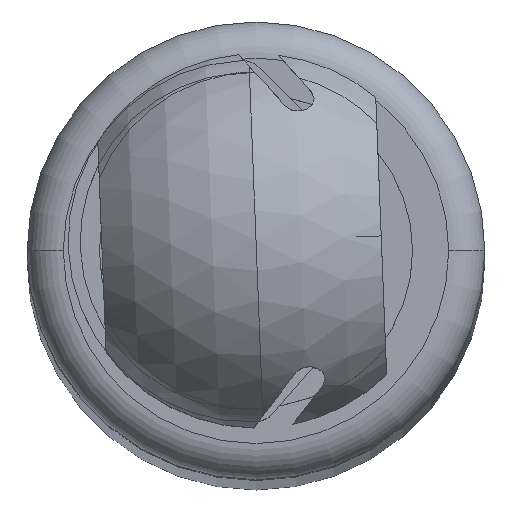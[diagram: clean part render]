
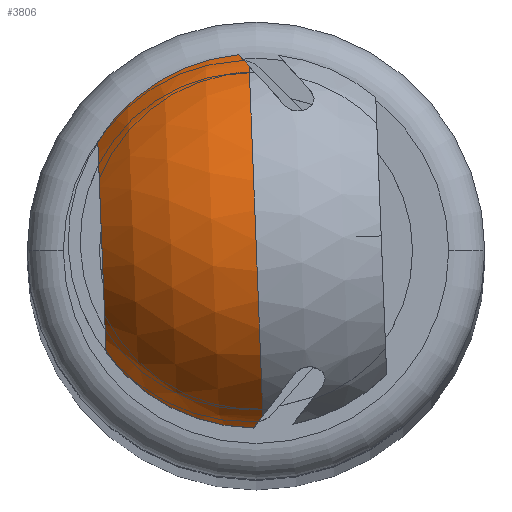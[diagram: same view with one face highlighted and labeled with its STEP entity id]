
A CAD part, top view. The second image highlights one B-rep face of the part: STEP entity #3806.
In plain terms, the highlighted spherical face has radius 8.25 mm.
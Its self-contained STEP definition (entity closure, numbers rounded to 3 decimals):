
#53 = CIRCLE ( 'NONE', #160, 6.804 ) ;
#75 = CIRCLE ( 'NONE', #363, 7.76 ) ;
#131 = AXIS2_PLACEMENT_3D ( 'NONE', #816, #815, #814 ) ;
#151 = CIRCLE ( 'NONE', #156, 5.206 ) ;
#156 = AXIS2_PLACEMENT_3D ( 'NONE', #817, #819, #820 ) ;
#160 = AXIS2_PLACEMENT_3D ( 'NONE', #824, #931, #975 ) ;
#175 = CIRCLE ( 'NONE', #222, 6.804 ) ;
#222 = AXIS2_PLACEMENT_3D ( 'NONE', #4456, #4457, #4458 ) ;
#225 = AXIS2_PLACEMENT_3D ( 'NONE', #4450, #4451, #4452 ) ;
#227 = CIRCLE ( 'NONE', #225, 8.25 ) ;
#295 = CIRCLE ( 'NONE', #330, 7.76 ) ;
#330 = AXIS2_PLACEMENT_3D ( 'NONE', #4600, #4601, #4602 ) ;
#363 = AXIS2_PLACEMENT_3D ( 'NONE', #4261, #4262, #4263 ) ;
#492 = CIRCLE ( 'NONE', #131, 8.25 ) ;
#814 = DIRECTION ( 'NONE',  ( 1., 0., 0. ) ) ;
#815 = DIRECTION ( 'NONE',  ( 0., 0., 1. ) ) ;
#816 = CARTESIAN_POINT ( 'NONE',  ( -70., 0., 0. ) ) ;
#817 = CARTESIAN_POINT ( 'NONE',  ( -70., 0., 6.4 ) ) ;
#819 = DIRECTION ( 'NONE',  ( 0., 0., -1. ) ) ;
#820 = DIRECTION ( 'NONE',  ( 1., 0., 0. ) ) ;
#824 = CARTESIAN_POINT ( 'NONE',  ( -70., -2.999, -3.574 ) ) ;
#931 = DIRECTION ( 'NONE',  ( 0., 0.643, 0.766 ) ) ;
#975 = DIRECTION ( 'NONE',  ( 0., -0.766, 0.643 ) ) ;
#1315 = CARTESIAN_POINT ( 'NONE',  ( -70., 0., 0. ) ) ;
#1385 = DIRECTION ( 'NONE',  ( 0., 0., -1. ) ) ;
#1512 = DIRECTION ( 'NONE',  ( 0., -1., 0. ) ) ;
#1862 = CARTESIAN_POINT ( 'NONE',  ( -72.8, 4.389, 6.4 ) ) ;
#1934 = CARTESIAN_POINT ( 'NONE',  ( -72.8, -7.749, 0.412 ) ) ;
#1948 = CARTESIAN_POINT ( 'NONE',  ( -72.8, -4.389, 6.4 ) ) ;
#1981 = CARTESIAN_POINT ( 'NONE',  ( -72.8, 7.749, 0.412 ) ) ;
#2028 = CARTESIAN_POINT ( 'NONE',  ( -73.921, -7.259, 0. ) ) ;
#2065 = CARTESIAN_POINT ( 'NONE',  ( -78.25, 0., 0. ) ) ;
#2243 = CARTESIAN_POINT ( 'NONE',  ( -73.921, 7.259, 0. ) ) ;
#2335 = SPHERICAL_SURFACE ( 'NONE', #3116, 8.25 ) ;
#2343 = FACE_OUTER_BOUND ( 'NONE', #3198, .T. ) ;
#3116 = AXIS2_PLACEMENT_3D ( 'NONE', #1315, #1385, #1512 ) ;
#3198 = EDGE_LOOP ( 'NONE', ( #3345, #3327, #3399, #3407, #3366, #3403, #3377 ) ) ;
#3327 = ORIENTED_EDGE ( 'NONE', *, *, #4723, .T. ) ;
#3345 = ORIENTED_EDGE ( 'NONE', *, *, #4842, .F. ) ;
#3349 = VERTEX_POINT ( 'NONE', #2028 ) ;
#3358 = VERTEX_POINT ( 'NONE', #2065 ) ;
#3366 = ORIENTED_EDGE ( 'NONE', *, *, #4735, .T. ) ;
#3377 = ORIENTED_EDGE ( 'NONE', *, *, #4844, .T. ) ;
#3383 = VERTEX_POINT ( 'NONE', #2243 ) ;
#3398 = VERTEX_POINT ( 'NONE', #1981 ) ;
#3399 = ORIENTED_EDGE ( 'NONE', *, *, #4741, .T. ) ;
#3403 = ORIENTED_EDGE ( 'NONE', *, *, #4875, .T. ) ;
#3407 = ORIENTED_EDGE ( 'NONE', *, *, #4798, .T. ) ;
#3429 = VERTEX_POINT ( 'NONE', #1934 ) ;
#3465 = VERTEX_POINT ( 'NONE', #1862 ) ;
#3482 = VERTEX_POINT ( 'NONE', #1948 ) ;
#3806 = ADVANCED_FACE ( 'NONE', ( #2343 ), #2335, .T. ) ;
#4261 = CARTESIAN_POINT ( 'NONE',  ( -72.8, 0., 0. ) ) ;
#4262 = DIRECTION ( 'NONE',  ( -1., 0., 0. ) ) ;
#4263 = DIRECTION ( 'NONE',  ( 0., 0., -1. ) ) ;
#4450 = CARTESIAN_POINT ( 'NONE',  ( -70., 0., 0. ) ) ;
#4451 = DIRECTION ( 'NONE',  ( 0., 0., -1. ) ) ;
#4452 = DIRECTION ( 'NONE',  ( -1., 0., 0. ) ) ;
#4456 = CARTESIAN_POINT ( 'NONE',  ( -70., 2.999, -3.574 ) ) ;
#4457 = DIRECTION ( 'NONE',  ( 0., -0.643, 0.766 ) ) ;
#4458 = DIRECTION ( 'NONE',  ( 0., -0.766, -0.643 ) ) ;
#4600 = CARTESIAN_POINT ( 'NONE',  ( -72.8, 0., 0. ) ) ;
#4601 = DIRECTION ( 'NONE',  ( -1., 0., 0. ) ) ;
#4602 = DIRECTION ( 'NONE',  ( 0., 0., -1. ) ) ;
#4723 = EDGE_CURVE ( 'NONE', #3358, #3349, #492, .T. ) ;
#4735 = EDGE_CURVE ( 'NONE', #3482, #3465, #151, .T. ) ;
#4741 = EDGE_CURVE ( 'NONE', #3349, #3429, #53, .T. ) ;
#4798 = EDGE_CURVE ( 'NONE', #3429, #3482, #75, .T. ) ;
#4842 = EDGE_CURVE ( 'NONE', #3358, #3383, #227, .T. ) ;
#4844 = EDGE_CURVE ( 'NONE', #3398, #3383, #175, .T. ) ;
#4875 = EDGE_CURVE ( 'NONE', #3465, #3398, #295, .T. ) ;
